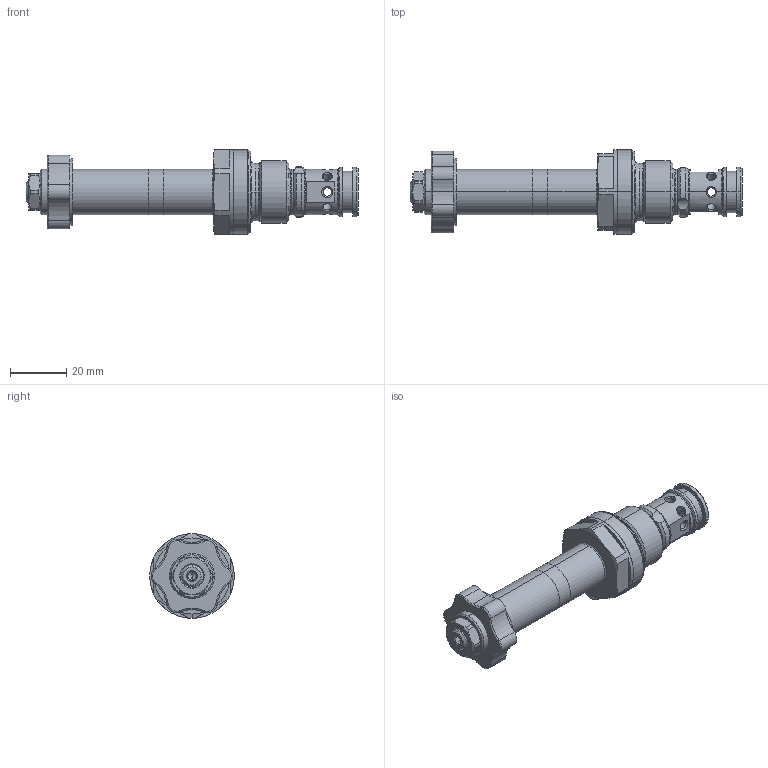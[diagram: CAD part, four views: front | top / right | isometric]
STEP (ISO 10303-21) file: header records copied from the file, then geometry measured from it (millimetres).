
FILE_DESCRIPTION (( 'STEP AP203' ), '1' );
FILE_NAME ('BNIPM22.step', '2014-01-22T14:44:37', ( 'Wandfluh AG' ), ( 'Wandfluh AG' ), 'SwSTEP 2.0', 'SolidWorks 2012', '' );
FILE_SCHEMA (( 'CONFIG_CONTROL_DESIGN' ));
Length unit declared in the file: millimetre
Products named in the file (1): BNIPM22
Bounding box: 117.7 x 30 x 30 mm (x, y, z)
Volume: 34151.7 mm3; surface area: 13916.3 mm2
Topology: 7 solids, 7 shells, 296 faces, 685 edges, 406 vertices
Faces by surface type: cylinder 98, cone 71, plane 62, torus 53, bspline 12
Entity records: 15610 total; most frequent: CARTESIAN_POINT 8842, DIRECTION 1475, ORIENTED_EDGE 1366, EDGE_CURVE 683, AXIS2_PLACEMENT_3D 639, VERTEX_POINT 406, CIRCLE 354, EDGE_LOOP 321
